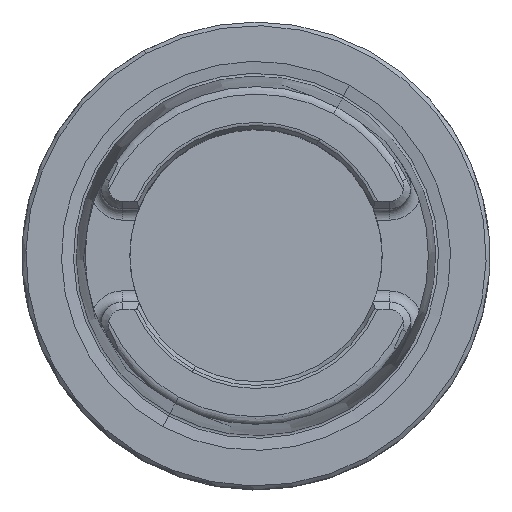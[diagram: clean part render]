
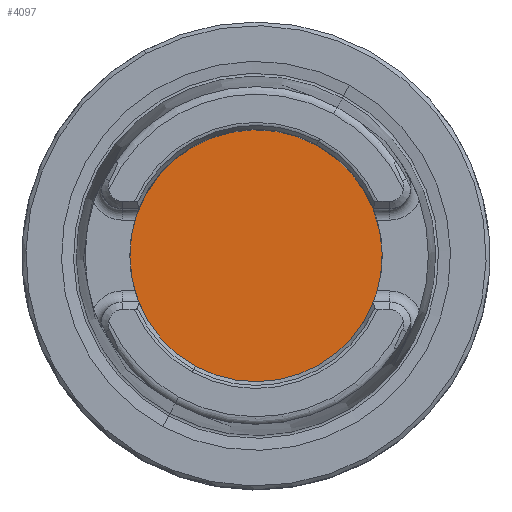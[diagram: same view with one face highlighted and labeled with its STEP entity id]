
A CAD part, top view. The second image highlights one B-rep face of the part: STEP entity #4097.
In plain terms, the highlighted planar face has unit normal (0, 0, 1).
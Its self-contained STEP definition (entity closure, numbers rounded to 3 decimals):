
#4077=AXIS2_PLACEMENT_3D('Plane Axis2P3D',#4074,#4075,#4076) ;
#4081=AXIS2_PLACEMENT_3D('Circle Axis2P3D',#4079,#4080,$) ;
#4090=AXIS2_PLACEMENT_3D('Circle Axis2P3D',#4088,#4089,$) ;
#4074=CARTESIAN_POINT('Axis2P3D Location',(0.,-15.75,-10.)) ;
#4079=CARTESIAN_POINT('Axis2P3D Location',(0.,0.,-10.)) ;
#4083=CARTESIAN_POINT('Vertex',(8.15,14.919,-10.)) ;
#4085=CARTESIAN_POINT('Vertex',(-8.15,-14.919,-10.)) ;
#4088=CARTESIAN_POINT('Axis2P3D Location',(0.,0.,-10.)) ;
#4075=DIRECTION('Axis2P3D Direction',(0.,0.,-1.)) ;
#4076=DIRECTION('Axis2P3D XDirection',(-1.,0.,0.)) ;
#4080=DIRECTION('Axis2P3D Direction',(0.,0.,-1.)) ;
#4089=DIRECTION('Axis2P3D Direction',(0.,0.,-1.)) ;
#4094=ORIENTED_EDGE('',*,*,#4087,.T.) ;
#4095=ORIENTED_EDGE('',*,*,#4092,.T.) ;
#4097=ADVANCED_FACE('NO_CUT',(#4096),#4078,.F.) ;
#4082=CIRCLE('generated circle',#4081,17.) ;
#4091=CIRCLE('generated circle',#4090,17.) ;
#4087=EDGE_CURVE('',#4084,#4086,#4082,.F.) ;
#4092=EDGE_CURVE('',#4086,#4084,#4091,.F.) ;
#4093=EDGE_LOOP('',(#4094,#4095)) ;
#4096=FACE_OUTER_BOUND('',#4093,.T.) ;
#4078=PLANE('',#4077) ;
#4084=VERTEX_POINT('',#4083) ;
#4086=VERTEX_POINT('',#4085) ;
